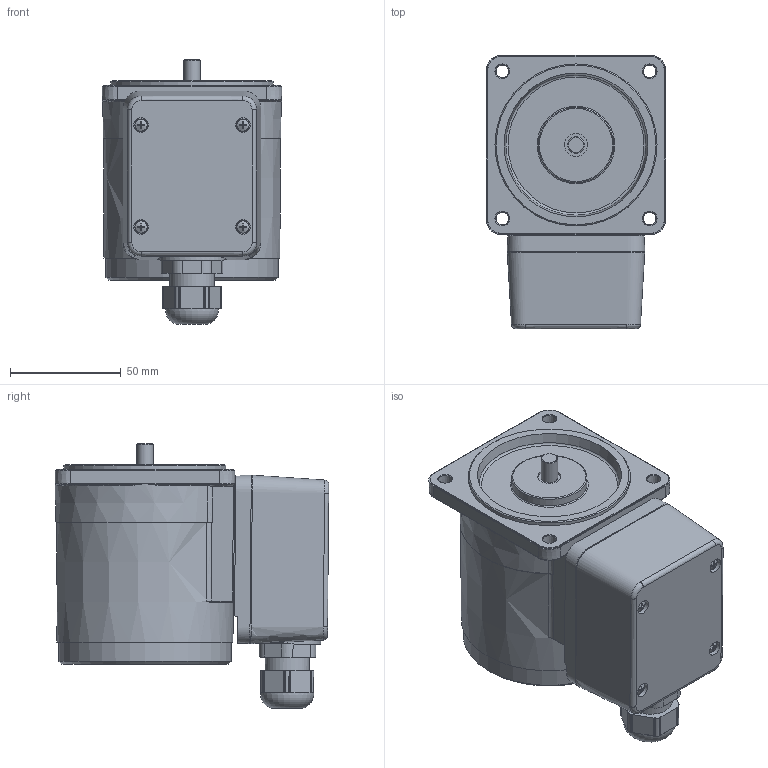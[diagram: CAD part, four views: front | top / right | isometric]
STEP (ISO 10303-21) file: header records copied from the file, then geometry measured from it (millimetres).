
FILE_DESCRIPTION (( 'STEP AP214' ), '1' );
FILE_NAME ('8IDG¤±-15G-T.STEP', '2025-01-13T01:48:03', ( '' ), ( '' ), 'SwSTEP 2.0', 'SolidWorks 2024', '' );
FILE_SCHEMA (( 'AUTOMOTIVE_DESIGN' ));
Length unit declared in the file: millimetre
Products named in the file (3): 8IDGㅁ-15G-T; TB6276; 8IDGㅁ-15G
Assembly tree (2 placements, depth 2):
  8IDGㅁ-15G-T
    8IDGㅁ-15G
    TB6276
Bounding box: 81 x 123.45 x 119.44 mm (x, y, z)
Volume: 650224.9 mm3; surface area: 61466.2 mm2
Topology: 2 solids, 2 shells, 344 faces, 835 edges, 532 vertices
Faces by surface type: plane 141, cylinder 91, torus 39, cone 39, bspline 32, sphere 2
Full cylindrical faces by diameter (mm): 5.5 x4, 6.6 x4, 7.49 x1, 8 x1, 10.5 x1, 14 x1, 20 x1, 34 x1, 73.1 x1
Entity records: 12154 total; most frequent: CARTESIAN_POINT 4515, DIRECTION 1564, ORIENTED_EDGE 1474, EDGE_CURVE 737, AXIS2_PLACEMENT_3D 631, VERTEX_POINT 516, EDGE_LOOP 471, FACE_OUTER_BOUND 388
